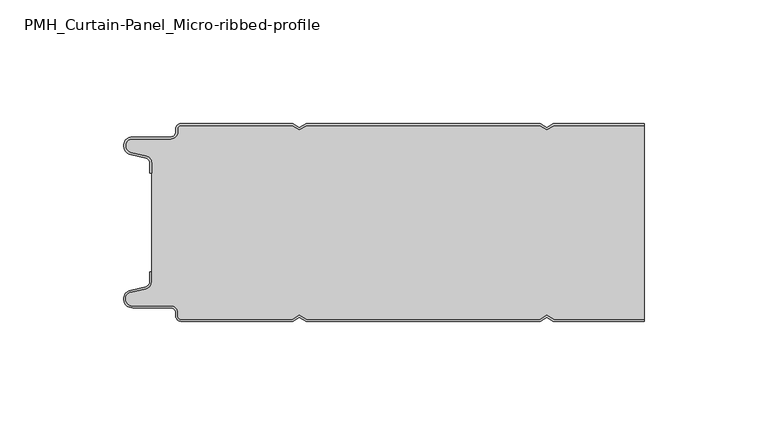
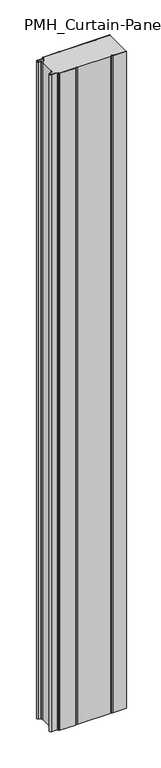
"""IFC4 building model written with IfcOpenShell, lengths in millimetres: plate geometry, PMH_Curtain-Panel_Micro-ribbed-profile : ACH_PMH_Stone-wool-Panel_80M."""

from ifc_helpers import new_model, si_unit, point, frame_2d, origin, origin_with_axes, place, context, project, spatial, polyline, circle_curve, trimmed, segment, composite_curve, outline, extrude, source, transform, mapped, element, save


def pmh_curtain_panel_micro_ribbed_profile_a05da92a(model_context):
    return source(origin(), model_context, "Body", "SweptSolid", [
        extrude(outline(composite_curve([segment(trimmed(circle_curve(frame_2d((-102.0119739, -15.878557)), 2.0), [point((-100.0119739, -15.878557))], [point((-101.5620718, -13.9298169))], True, "CARTESIAN"), True, "CONTINUOUS"), segment(polyline([(-101.5620718, -13.9298169), (-107.7217978, -12.507732)]), True, "CONTINUOUS"), segment(trimmed(circle_curve(frame_2d((-106.9119739, -9.0)), 3.6), [point((-107.7217978, -12.507732))], [point((-106.9119739, -5.4))], False, "CARTESIAN"), True, "CONTINUOUS"), segment(polyline([(-106.9119739, -5.4), (-91.4119739, -5.4)]), True, "CONTINUOUS"), segment(trimmed(circle_curve(frame_2d((-91.4119739, -3.4)), 2.0), [point((-91.4119739, -5.4))], [point((-89.4119739, -3.4))], True, "CARTESIAN"), True, "CONTINUOUS"), segment(polyline([(-89.4119739, -3.4), (-89.4119739, -2.0)]), True, "CONTINUOUS"), segment(trimmed(circle_curve(frame_2d((-87.4119739, -2.0)), 2.0), [point((-89.4119739, -2.0))], [point((-87.4119739, 0.0))], False, "CARTESIAN"), True, "CONTINUOUS"), segment(polyline([(-87.4119739, 0.0), (-42.1119734, 0.0), (-39.4119739, -1.5588455), (-36.7119745, 0.0), (57.8880266, 0.0), (60.5880261, -1.5588455), (63.2880255, 0.0), (100.0119739, 0.0), (100.0119739, -0.8), (63.5023849, -0.8), (60.5880261, -2.482606), (57.6736672, -0.8), (-36.4976151, -0.8), (-39.4119739, -2.482606), (-42.3263328, -0.8), (-87.4119739, -0.8)]), True, "CONTINUOUS"), segment(trimmed(circle_curve(frame_2d((-87.4119739, -2.0)), 1.2), [point((-87.4119739, -0.8))], [point((-88.6119739, -2.0))], True, "CARTESIAN"), True, "CONTINUOUS"), segment(polyline([(-88.6119739, -2.0), (-88.6119739, -3.4)]), True, "CONTINUOUS"), segment(trimmed(circle_curve(frame_2d((-91.4119739, -3.4)), 2.8), [point((-88.6119739, -3.4))], [point((-91.4119739, -6.2))], False, "CARTESIAN"), True, "CONTINUOUS"), segment(polyline([(-91.4119739, -6.2), (-106.9119739, -6.2)]), True, "CONTINUOUS"), segment(trimmed(circle_curve(frame_2d((-106.9119739, -9.0)), 2.8), [point((-106.9119739, -6.2))], [point((-107.541837, -11.7282362))], True, "CARTESIAN"), True, "CONTINUOUS"), segment(polyline([(-107.541837, -11.7282362), (-101.3821109, -13.150321)]), True, "CONTINUOUS"), segment(trimmed(circle_curve(frame_2d((-102.0119739, -15.878557)), 2.8), [point((-101.3821109, -13.150321))], [point((-99.2119739, -15.878557))], False, "CARTESIAN"), True, "CONTINUOUS"), segment(polyline([(-99.2119739, -15.878557), (-99.2119739, -20.0), (-100.0119739, -20.0), (-100.0119739, -15.878557)]), True, "CONTINUOUS")], self_intersect=False)), origin_with_axes(), (0.0, 0.0, 1.0), 1945.7507136),
        extrude(outline(composite_curve([segment(polyline([(-99.2119739, -64.1214426), (-99.2119739, -15.8785573)]), True, "CONTINUOUS"), segment(trimmed(circle_curve(frame_2d((-102.0119739, -15.8785573)), 2.8), [point((-99.2119739, -15.8785573))], [point((-101.3821109, -13.1503212))], True, "CARTESIAN"), True, "CONTINUOUS"), segment(polyline([(-101.3821109, -13.1503212), (-107.541837, -11.7282362)]), True, "CONTINUOUS"), segment(trimmed(circle_curve(frame_2d((-106.911974, -9.0)), 2.8), [point((-107.541837, -11.7282362))], [point((-106.911974, -6.2))], False, "CARTESIAN"), True, "CONTINUOUS"), segment(polyline([(-106.911974, -6.2), (-91.411974, -6.2)]), True, "CONTINUOUS"), segment(trimmed(circle_curve(frame_2d((-91.411974, -3.4)), 2.8), [point((-91.411974, -6.2))], [point((-88.611974, -3.4))], True, "CARTESIAN"), True, "CONTINUOUS"), segment(polyline([(-88.611974, -3.4), (-88.611974, -2.0)]), True, "CONTINUOUS"), segment(trimmed(circle_curve(frame_2d((-87.411974, -2.0)), 1.2), [point((-88.611974, -2.0))], [point((-87.411974, -0.8))], False, "CARTESIAN"), True, "CONTINUOUS"), segment(polyline([(-87.411974, -0.8), (-42.3263329, -0.8), (-39.411974, -2.482606), (-36.4976152, -0.8), (57.6736671, -0.8), (60.588026, -2.482606), (63.5023848, -0.8), (100.0119739, -0.8), (100.0119739, -79.2), (63.5023848, -79.2), (60.588026, -77.517394), (57.6736671, -79.2), (-36.4976152, -79.2), (-39.411974, -77.517394), (-42.3263329, -79.2), (-87.411974, -79.2)]), True, "CONTINUOUS"), segment(trimmed(circle_curve(frame_2d((-87.411974, -78.0)), 1.2), [point((-87.411974, -79.2))], [point((-88.611974, -78.0))], False, "CARTESIAN"), True, "CONTINUOUS"), segment(polyline([(-88.611974, -78.0), (-88.611974, -76.6)]), True, "CONTINUOUS"), segment(trimmed(circle_curve(frame_2d((-91.411974, -76.6)), 2.8), [point((-88.611974, -76.6))], [point((-91.411974, -73.8))], True, "CARTESIAN"), True, "CONTINUOUS"), segment(polyline([(-91.411974, -73.8), (-106.911974, -73.8)]), True, "CONTINUOUS"), segment(trimmed(circle_curve(frame_2d((-106.911974, -71.0)), 2.8), [point((-106.911974, -73.8))], [point((-107.541837, -68.2717638))], False, "CARTESIAN"), True, "CONTINUOUS"), segment(polyline([(-107.541837, -68.2717638), (-101.3821109, -66.8496788)]), True, "CONTINUOUS"), segment(trimmed(circle_curve(frame_2d((-102.0119739, -64.1214426)), 2.8), [point((-101.3821109, -66.8496788))], [point((-99.2119739, -64.1214426))], True, "CARTESIAN"), True, "CONTINUOUS")], self_intersect=False)), origin_with_axes(), (0.0, 0.0, 1.0), 1945.7507136),
        extrude(outline(composite_curve([segment(polyline([(-100.0119739, -64.121443), (-100.0119739, -60.0), (-99.2119739, -60.0), (-99.2119739, -64.121443)]), True, "CONTINUOUS"), segment(trimmed(circle_curve(frame_2d((-102.0119739, -64.121443)), 2.8), [point((-99.2119739, -64.121443))], [point((-101.3821109, -66.8496792))], False, "CARTESIAN"), True, "CONTINUOUS"), segment(polyline([(-101.3821109, -66.8496792), (-107.5418369, -68.271764)]), True, "CONTINUOUS"), segment(trimmed(circle_curve(frame_2d((-106.9119739, -71.0)), 2.8), [point((-107.5418369, -68.271764))], [point((-106.9119739, -73.8))], True, "CARTESIAN"), True, "CONTINUOUS"), segment(polyline([(-106.9119739, -73.8), (-91.4119739, -73.8)]), True, "CONTINUOUS"), segment(trimmed(circle_curve(frame_2d((-91.4119739, -76.6)), 2.8), [point((-91.4119739, -73.8))], [point((-88.6119739, -76.6))], False, "CARTESIAN"), True, "CONTINUOUS"), segment(polyline([(-88.6119739, -76.6), (-88.6119739, -78.0)]), True, "CONTINUOUS"), segment(trimmed(circle_curve(frame_2d((-87.4119739, -78.0)), 1.2), [point((-88.6119739, -78.0))], [point((-87.4119739, -79.2))], True, "CARTESIAN"), True, "CONTINUOUS"), segment(polyline([(-87.4119739, -79.2), (-42.3263328, -79.2), (-39.4119739, -77.517394), (-36.4976151, -79.2), (57.6736672, -79.2), (60.5880261, -77.517394), (63.5023849, -79.2), (100.0119739, -79.2), (100.0119739, -80.0), (63.2880255, -80.0), (60.5880261, -78.4411545), (57.8880266, -80.0), (-36.7119745, -80.0), (-39.4119739, -78.4411545), (-42.1119734, -80.0), (-87.4119739, -80.0)]), True, "CONTINUOUS"), segment(trimmed(circle_curve(frame_2d((-87.4119739, -78.0)), 2.0), [point((-87.4119739, -80.0))], [point((-89.4119739, -78.0))], False, "CARTESIAN"), True, "CONTINUOUS"), segment(polyline([(-89.4119739, -78.0), (-89.4119739, -76.6)]), True, "CONTINUOUS"), segment(trimmed(circle_curve(frame_2d((-91.4119739, -76.6)), 2.0), [point((-89.4119739, -76.6))], [point((-91.4119739, -74.6))], True, "CARTESIAN"), True, "CONTINUOUS"), segment(polyline([(-91.4119739, -74.6), (-106.9119739, -74.6)]), True, "CONTINUOUS"), segment(trimmed(circle_curve(frame_2d((-106.9119739, -71.0)), 3.6), [point((-106.9119739, -74.6))], [point((-107.7217979, -67.4922678))], False, "CARTESIAN"), True, "CONTINUOUS"), segment(polyline([(-107.7217979, -67.4922678), (-101.5620718, -66.070183)]), True, "CONTINUOUS"), segment(trimmed(circle_curve(frame_2d((-102.0119739, -64.121443)), 2.0), [point((-101.5620718, -66.070183))], [point((-100.0119739, -64.121443))], True, "CARTESIAN"), True, "CONTINUOUS")], self_intersect=False)), origin_with_axes(), (0.0, 0.0, 1.0), 1945.7507136),
    ])


if __name__ == "__main__":
    model = new_model("IFC4")
    model_context = context("Model", 3, world=origin())
    ifc_project = project(units=[si_unit("LENGTHUNIT", "METRE", prefix="MILLI")], contexts=[model_context])
    site = spatial("IfcSite", under=ifc_project)
    building = spatial("IfcBuilding", under=site)
    placement = place(None, origin())
    pmh_curtain_panel_micro_ribbed_profile_shape = pmh_curtain_panel_micro_ribbed_profile_a05da92a(model_context)
    element("IfcPlate", 1, ObjectType="PMH_Curtain-Panel_Micro-ribbed-profile : ACH_PMH_Stone-wool-Panel_80M", at=placement, inside=building, context=model_context, shape_type="MappedRepresentation", body=[
        mapped(pmh_curtain_panel_micro_ribbed_profile_shape, transform((0.0, 0.0, 0.0), x_axis=(1.0, 0.0, 0.0), y_axis=(0.0, 1.0, 0.0), z_axis=(0.0, 0.0, 1.0))),
    ])
    save(model, "model.ifc")
